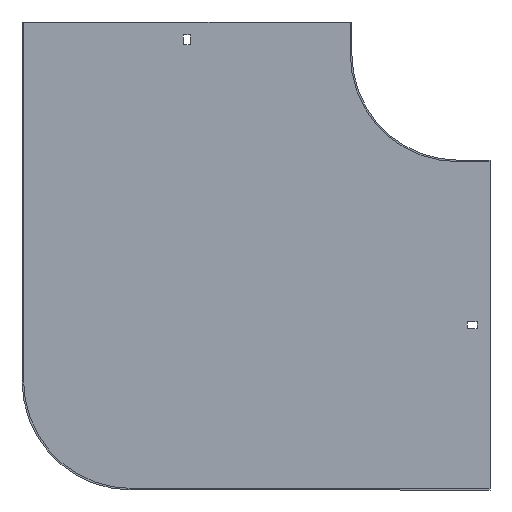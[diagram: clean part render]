
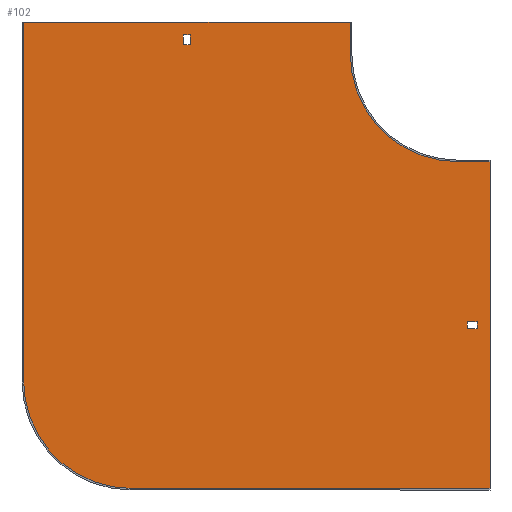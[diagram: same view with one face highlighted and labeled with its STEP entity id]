
A CAD part, front view. The second image highlights one B-rep face of the part: STEP entity #102.
In plain terms, the highlighted planar face has unit normal (0, -1, 0).
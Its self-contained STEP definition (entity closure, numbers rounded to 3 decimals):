
#1 = EDGE_CURVE ( 'NONE', #685, #628, #476, .T. ) ;
#7 = LINE ( 'NONE', #9, #644 ) ;
#8 = VERTEX_POINT ( 'NONE', #836 ) ;
#9 = CARTESIAN_POINT ( 'NONE',  ( -255.25, -1.5, 0. ) ) ;
#27 = VECTOR ( 'NONE', #183, 1000. ) ;
#28 = ORIENTED_EDGE ( 'NONE', *, *, #394, .T. ) ;
#36 = EDGE_CURVE ( 'NONE', #744, #91, #774, .T. ) ;
#45 = ORIENTED_EDGE ( 'NONE', *, *, #321, .F. ) ;
#55 = LINE ( 'NONE', #494, #27 ) ;
#56 = CARTESIAN_POINT ( 'NONE',  ( 9., -1.5, 0. ) ) ;
#64 = DIRECTION ( 'NONE',  ( -1., 0., 0. ) ) ;
#75 = CARTESIAN_POINT ( 'NONE',  ( -248.75, -1.5, 18. ) ) ;
#84 = CARTESIAN_POINT ( 'NONE',  ( -404., -1.5, 30. ) ) ;
#87 = EDGE_CURVE ( 'NONE', #416, #8, #370, .T. ) ;
#88 = CARTESIAN_POINT ( 'NONE',  ( 9., -1.5, -248.75 ) ) ;
#91 = VERTEX_POINT ( 'NONE', #239 ) ;
#99 = DIRECTION ( 'NONE',  ( 0., 0., -1. ) ) ;
#101 = CARTESIAN_POINT ( 'NONE',  ( 18., -1.5, -255.25 ) ) ;
#102 = ADVANCED_FACE ( 'NONE', ( #787, #235, #245 ), #497, .T. ) ;
#105 = CARTESIAN_POINT ( 'NONE',  ( 0., -1.5, 18. ) ) ;
#112 = ORIENTED_EDGE ( 'NONE', *, *, #550, .F. ) ;
#115 = CARTESIAN_POINT ( 'NONE',  ( 0., -1.5, -255.25 ) ) ;
#120 = DIRECTION ( 'NONE',  ( 0., 0., -1. ) ) ;
#124 = VERTEX_POINT ( 'NONE', #511 ) ;
#143 = VERTEX_POINT ( 'NONE', #439 ) ;
#152 = LINE ( 'NONE', #210, #758 ) ;
#168 = DIRECTION ( 'NONE',  ( -1., 0., 0. ) ) ;
#183 = DIRECTION ( 'NONE',  ( 1., 0., 0. ) ) ;
#185 = CARTESIAN_POINT ( 'NONE',  ( 0., -1.5, -248.75 ) ) ;
#189 = CARTESIAN_POINT ( 'NONE',  ( 18., -1.5, -248.75 ) ) ;
#201 = VECTOR ( 'NONE', #849, 1000. ) ;
#210 = CARTESIAN_POINT ( 'NONE',  ( -100., -1.5, 30. ) ) ;
#222 = VERTEX_POINT ( 'NONE', #101 ) ;
#223 = CARTESIAN_POINT ( 'NONE',  ( -304., -1.5, -404. ) ) ;
#227 = CIRCLE ( 'NONE', #813, 100. ) ;
#229 = LINE ( 'NONE', #765, #595 ) ;
#230 = DIRECTION ( 'NONE',  ( 0., 1., 0. ) ) ;
#235 = FACE_OUTER_BOUND ( 'NONE', #768, .T. ) ;
#236 = ORIENTED_EDGE ( 'NONE', *, *, #799, .F. ) ;
#239 = CARTESIAN_POINT ( 'NONE',  ( 30., -1.5, -404. ) ) ;
#244 = DIRECTION ( 'NONE',  ( 0., 0., 1. ) ) ;
#245 = FACE_BOUND ( 'NONE', #528, .T. ) ;
#250 = EDGE_CURVE ( 'NONE', #507, #547, #546, .T. ) ;
#251 = AXIS2_PLACEMENT_3D ( 'NONE', #280, #230, #621 ) ;
#269 = DIRECTION ( 'NONE',  ( 0., 0., -1. ) ) ;
#280 = CARTESIAN_POINT ( 'NONE',  ( -304., -1.5, -304. ) ) ;
#281 = EDGE_LOOP ( 'NONE', ( #403, #462, #834, #599 ) ) ;
#288 = VERTEX_POINT ( 'NONE', #84 ) ;
#289 = ORIENTED_EDGE ( 'NONE', *, *, #36, .F. ) ;
#307 = CARTESIAN_POINT ( 'NONE',  ( -404., -1.5, -304. ) ) ;
#313 = CARTESIAN_POINT ( 'NONE',  ( -255.25, -1.5, 18. ) ) ;
#321 = EDGE_CURVE ( 'NONE', #547, #288, #373, .T. ) ;
#323 = LINE ( 'NONE', #585, #646 ) ;
#334 = LINE ( 'NONE', #389, #417 ) ;
#351 = VECTOR ( 'NONE', #700, 1000. ) ;
#355 = VECTOR ( 'NONE', #428, 1000. ) ;
#367 = CARTESIAN_POINT ( 'NONE',  ( 0., -1.5, 0. ) ) ;
#370 = LINE ( 'NONE', #56, #201 ) ;
#371 = EDGE_CURVE ( 'NONE', #124, #744, #323, .T. ) ;
#373 = LINE ( 'NONE', #307, #355 ) ;
#389 = CARTESIAN_POINT ( 'NONE',  ( -248.75, -1.5, 0. ) ) ;
#394 = EDGE_CURVE ( 'NONE', #660, #685, #7, .T. ) ;
#403 = ORIENTED_EDGE ( 'NONE', *, *, #709, .F. ) ;
#407 = ORIENTED_EDGE ( 'NONE', *, *, #433, .F. ) ;
#408 = DIRECTION ( 'NONE',  ( 0., -1., 0. ) ) ;
#416 = VERTEX_POINT ( 'NONE', #88 ) ;
#417 = VECTOR ( 'NONE', #519, 1000. ) ;
#418 = ORIENTED_EDGE ( 'NONE', *, *, #533, .F. ) ;
#428 = DIRECTION ( 'NONE',  ( 0., 0., 1. ) ) ;
#433 = EDGE_CURVE ( 'NONE', #143, #567, #152, .T. ) ;
#439 = CARTESIAN_POINT ( 'NONE',  ( -100., -1.5, 30. ) ) ;
#459 = ORIENTED_EDGE ( 'NONE', *, *, #371, .F. ) ;
#461 = CARTESIAN_POINT ( 'NONE',  ( 30., -1.5, -100. ) ) ;
#462 = ORIENTED_EDGE ( 'NONE', *, *, #675, .F. ) ;
#463 = ORIENTED_EDGE ( 'NONE', *, *, #488, .T. ) ;
#474 = ORIENTED_EDGE ( 'NONE', *, *, #250, .F. ) ;
#476 = LINE ( 'NONE', #105, #793 ) ;
#479 = VECTOR ( 'NONE', #99, 1000. ) ;
#488 = EDGE_CURVE ( 'NONE', #544, #660, #229, .T. ) ;
#494 = CARTESIAN_POINT ( 'NONE',  ( -405.5, -1.5, 30. ) ) ;
#497 = PLANE ( 'NONE',  #772 ) ;
#507 = VERTEX_POINT ( 'NONE', #223 ) ;
#509 = DIRECTION ( 'NONE',  ( -1., 0., 0. ) ) ;
#511 = CARTESIAN_POINT ( 'NONE',  ( 0., -1.5, -100. ) ) ;
#512 = VECTOR ( 'NONE', #244, 1000. ) ;
#519 = DIRECTION ( 'NONE',  ( 0., 0., -1. ) ) ;
#528 = EDGE_LOOP ( 'NONE', ( #531, #603, #463, #28 ) ) ;
#531 = ORIENTED_EDGE ( 'NONE', *, *, #1, .T. ) ;
#533 = EDGE_CURVE ( 'NONE', #567, #124, #227, .T. ) ;
#544 = VERTEX_POINT ( 'NONE', #815 ) ;
#546 = CIRCLE ( 'NONE', #251, 100. ) ;
#547 = VERTEX_POINT ( 'NONE', #779 ) ;
#550 = EDGE_CURVE ( 'NONE', #288, #143, #55, .T. ) ;
#567 = VERTEX_POINT ( 'NONE', #848 ) ;
#581 = LINE ( 'NONE', #850, #512 ) ;
#585 = CARTESIAN_POINT ( 'NONE',  ( 0., -1.5, -100. ) ) ;
#593 = CARTESIAN_POINT ( 'NONE',  ( 30., -1.5, -404. ) ) ;
#595 = VECTOR ( 'NONE', #168, 1000. ) ;
#599 = ORIENTED_EDGE ( 'NONE', *, *, #87, .F. ) ;
#603 = ORIENTED_EDGE ( 'NONE', *, *, #743, .T. ) ;
#606 = DIRECTION ( 'NONE',  ( 0., 0., -1. ) ) ;
#609 = VERTEX_POINT ( 'NONE', #189 ) ;
#621 = DIRECTION ( 'NONE',  ( 0., 0., -1. ) ) ;
#628 = VERTEX_POINT ( 'NONE', #75 ) ;
#630 = VECTOR ( 'NONE', #509, 1000. ) ;
#644 = VECTOR ( 'NONE', #712, 1000. ) ;
#645 = CARTESIAN_POINT ( 'NONE',  ( -255.25, -1.5, 9. ) ) ;
#646 = VECTOR ( 'NONE', #858, 1000. ) ;
#656 = EDGE_CURVE ( 'NONE', #8, #222, #776, .T. ) ;
#660 = VERTEX_POINT ( 'NONE', #645 ) ;
#675 = EDGE_CURVE ( 'NONE', #222, #609, #581, .T. ) ;
#685 = VERTEX_POINT ( 'NONE', #313 ) ;
#700 = DIRECTION ( 'NONE',  ( 1., 0., 0. ) ) ;
#709 = EDGE_CURVE ( 'NONE', #609, #416, #720, .T. ) ;
#712 = DIRECTION ( 'NONE',  ( 0., 0., 1. ) ) ;
#720 = LINE ( 'NONE', #185, #630 ) ;
#743 = EDGE_CURVE ( 'NONE', #628, #544, #334, .T. ) ;
#744 = VERTEX_POINT ( 'NONE', #461 ) ;
#758 = VECTOR ( 'NONE', #269, 1000. ) ;
#765 = CARTESIAN_POINT ( 'NONE',  ( 0., -1.5, 9. ) ) ;
#768 = EDGE_LOOP ( 'NONE', ( #112, #45, #474, #236, #289, #459, #418, #407 ) ) ;
#770 = CARTESIAN_POINT ( 'NONE',  ( 30., -1.5, -98.5 ) ) ;
#772 = AXIS2_PLACEMENT_3D ( 'NONE', #367, #778, #120 ) ;
#774 = LINE ( 'NONE', #770, #479 ) ;
#776 = LINE ( 'NONE', #115, #351 ) ;
#778 = DIRECTION ( 'NONE',  ( 0., -1., 0. ) ) ;
#779 = CARTESIAN_POINT ( 'NONE',  ( -404., -1.5, -304. ) ) ;
#787 = FACE_BOUND ( 'NONE', #281, .T. ) ;
#793 = VECTOR ( 'NONE', #845, 1000. ) ;
#799 = EDGE_CURVE ( 'NONE', #91, #507, #857, .T. ) ;
#808 = CARTESIAN_POINT ( 'NONE',  ( 0., -1.5, 0. ) ) ;
#813 = AXIS2_PLACEMENT_3D ( 'NONE', #808, #408, #606 ) ;
#815 = CARTESIAN_POINT ( 'NONE',  ( -248.75, -1.5, 9. ) ) ;
#834 = ORIENTED_EDGE ( 'NONE', *, *, #656, .F. ) ;
#836 = CARTESIAN_POINT ( 'NONE',  ( 9., -1.5, -255.25 ) ) ;
#841 = VECTOR ( 'NONE', #64, 1000. ) ;
#845 = DIRECTION ( 'NONE',  ( 1., 0., 0. ) ) ;
#848 = CARTESIAN_POINT ( 'NONE',  ( -100., -1.5, 0. ) ) ;
#849 = DIRECTION ( 'NONE',  ( 0., 0., -1. ) ) ;
#850 = CARTESIAN_POINT ( 'NONE',  ( 18., -1.5, 0. ) ) ;
#857 = LINE ( 'NONE', #593, #841 ) ;
#858 = DIRECTION ( 'NONE',  ( 1., 0., 0. ) ) ;
